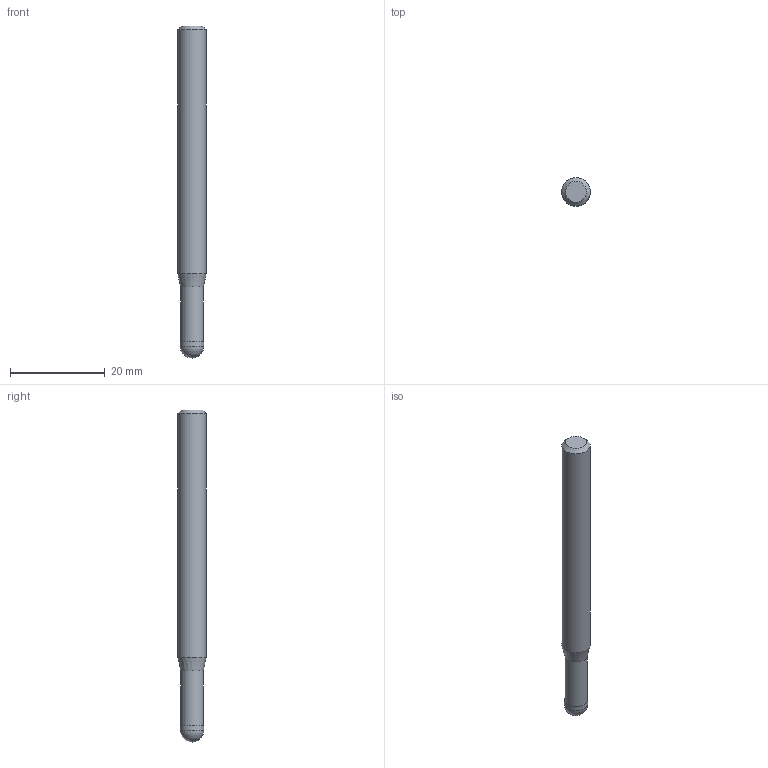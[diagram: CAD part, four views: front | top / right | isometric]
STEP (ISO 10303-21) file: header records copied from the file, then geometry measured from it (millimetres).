
FILE_DESCRIPTION((''),'2;1');
FILE_NAME('C:\Users\nsx150\AppData\Local\Temp\Mastercam 2021\3SYKECWX22\TEMP.step','2021-04-22T10:05:40',(''),(''),'STEP Write','Mastercam 2021 ... CNC Software, Inc.','');
FILE_SCHEMA(('AUTOMOTIVE_DESIGN'));
Length unit declared in the file: millimetre
Products named in the file (1): None
Bounding box: 6 x 6 x 70 mm (x, y, z)
Volume: 1795.2 mm3; surface area: 1317.2 mm2
Topology: 2 solids, 2 shells, 9 faces, 14 edges, 8 vertices
Faces by surface type: plane 3, cylinder 3, cone 2, sphere 1
Full cylindrical faces by diameter (mm): 4.8 x1, 5 x1, 6 x1
Entity records: 211 total; most frequent: DIRECTION 36, CARTESIAN_POINT 25, AXIS2_PLACEMENT_3D 18, ORIENTED_EDGE 14, EDGE_LOOP 14, STYLED_ITEM 12, ADVANCED_FACE 9, FACE_BOUND 8
